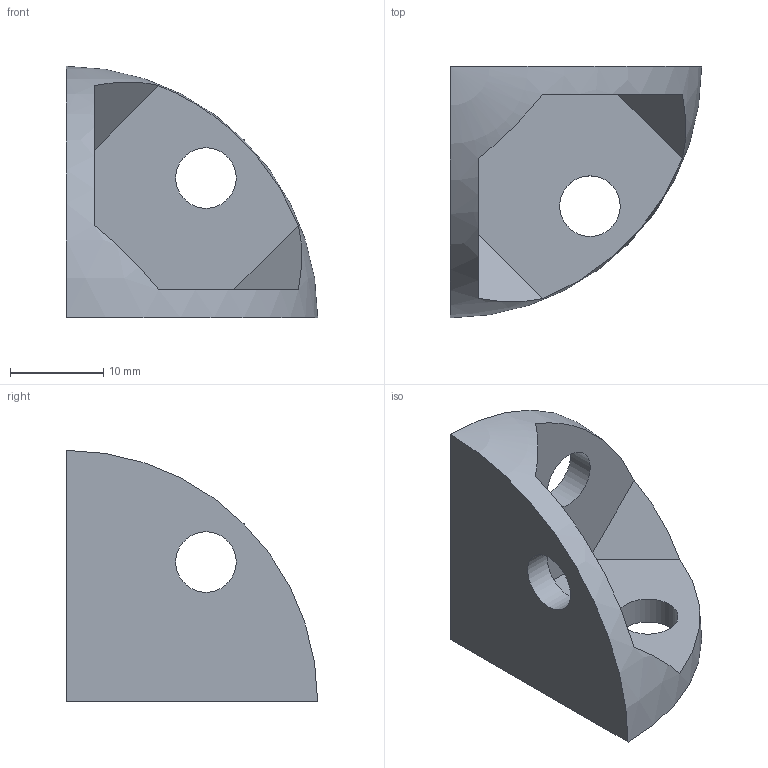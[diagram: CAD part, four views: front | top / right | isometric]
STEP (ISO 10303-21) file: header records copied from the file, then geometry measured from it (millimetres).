
FILE_DESCRIPTION(/* description */ ('Unknown'),/* implementation_level */ '2;1');
FILE_NAME(/* name */ 'DL0630',/* time_stamp */ '2026-09-17T14:38:08+08:00',/* author */ ('Unknown'),/* organization */ ('Unknown'),/* preprocessor_version */ 'ST-DEVELOPER v16.7',/* originating_system */ 'DEX',/* authorisation */ $);
FILE_SCHEMA (('AUTOMOTIVE_DESIGN {1 0 10303 214 3 1 1}'));
Length unit declared in the file: millimetre
Products named in the file (1): DL0630
Bounding box: 27 x 27 x 27 mm (x, y, z)
Volume: 4366.3 mm3; surface area: 3326.2 mm2
Topology: 1 solids, 1 shells, 13 faces, 33 edges, 22 vertices
Faces by surface type: plane 9, cylinder 3, sphere 1
Full cylindrical faces by diameter (mm): 6.5 x3
Entity records: 406 total; most frequent: DIRECTION 70, CARTESIAN_POINT 61, ORIENTED_EDGE 54, AXIS2_PLACEMENT_3D 29, EDGE_CURVE 27, EDGE_LOOP 23, FACE_BOUND 23, VERTEX_POINT 20
